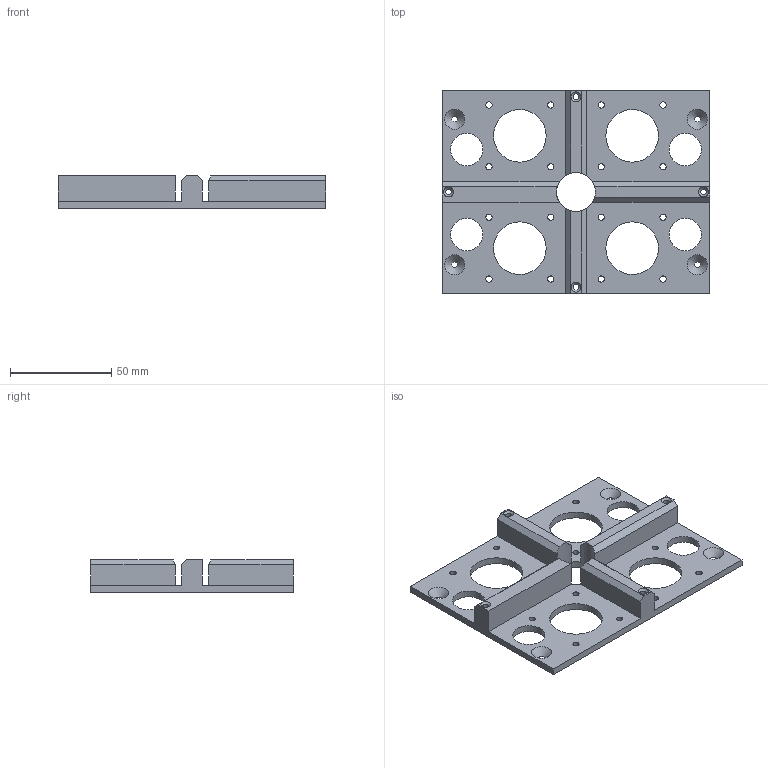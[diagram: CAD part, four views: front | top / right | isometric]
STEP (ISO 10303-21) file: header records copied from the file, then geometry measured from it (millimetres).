
FILE_DESCRIPTION(('FreeCAD Model'),'2;1');
FILE_NAME('Open CASCADE Shape Model','2026-08-18T22:48:44',('Author'),( ''),'Open CASCADE STEP processor 7.8','FreeCAD','Unknown');
FILE_SCHEMA(('AUTOMOTIVE_DESIGN { 1 0 10303 214 1 1 1 1 }'));
Length unit declared in the file: millimetre
Products named in the file (1): Body
Bounding box: 132 x 100 x 16 mm (x, y, z)
Volume: 56903.2 mm3; surface area: 29981.4 mm2
Topology: 1 solids, 1 shells, 65 faces, 188 edges, 124 vertices
Faces by surface type: cylinder 29, plane 28, cone 8
Full cylindrical faces by diameter (mm): 2.95 x4, 3.05 x16, 16 x4, 19.3 x1, 26 x4
Entity records: 2328 total; most frequent: DIRECTION 404, CARTESIAN_POINT 379, ORIENTED_EDGE 376, EDGE_CURVE 188, AXIS2_PLACEMENT_3D 151, FACE_BOUND 130, EDGE_LOOP 130, VERTEX_POINT 124
